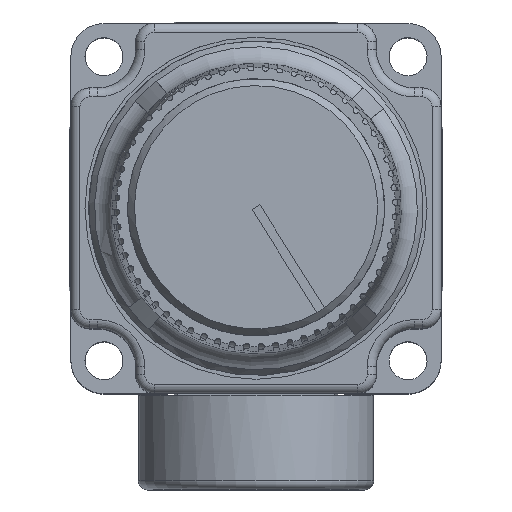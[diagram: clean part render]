
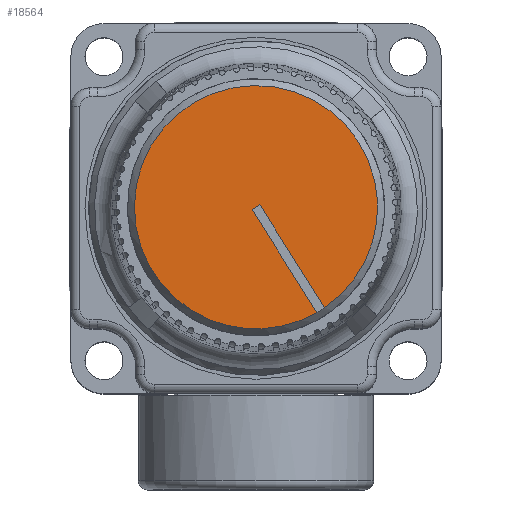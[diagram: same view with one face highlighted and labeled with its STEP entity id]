
A CAD part, top view. The second image highlights one B-rep face of the part: STEP entity #18564.
In plain terms, the highlighted planar face has unit normal (0, 0, 1).
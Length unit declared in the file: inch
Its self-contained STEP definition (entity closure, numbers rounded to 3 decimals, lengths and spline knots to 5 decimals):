
#662=PLANE('',#20417);
#1649=CIRCLE('',#20413,0.4);
#1650=CIRCLE('',#20414,0.4);
#2677=FACE_OUTER_BOUND('',#3786,.T.);
#3786=EDGE_LOOP('',(#15112,#15113,#15114,#15115,#15116));
#5156=LINE('',#38981,#6400);
#5161=LINE('',#39000,#6405);
#5164=LINE('',#39005,#6408);
#6400=VECTOR('',#24934,0.3937);
#6405=VECTOR('',#24945,0.3937);
#6408=VECTOR('',#24950,0.3937);
#8097=VERTEX_POINT('',#38979);
#8098=VERTEX_POINT('',#38980);
#8101=VERTEX_POINT('',#38993);
#8103=VERTEX_POINT('',#38999);
#8105=VERTEX_POINT('',#39009);
#10480=EDGE_CURVE('',#8097,#8098,#5156,.T.);
#10487=EDGE_CURVE('',#8103,#8101,#5161,.T.);
#10490=EDGE_CURVE('',#8098,#8103,#5164,.T.);
#10492=EDGE_CURVE('',#8101,#8105,#1649,.T.);
#10493=EDGE_CURVE('',#8105,#8097,#1650,.T.);
#15112=ORIENTED_EDGE('',*,*,#10487,.T.);
#15113=ORIENTED_EDGE('',*,*,#10492,.T.);
#15114=ORIENTED_EDGE('',*,*,#10493,.T.);
#15115=ORIENTED_EDGE('',*,*,#10480,.T.);
#15116=ORIENTED_EDGE('',*,*,#10490,.T.);
#18564=ADVANCED_FACE('',(#2677),#662,.T.);
#20413=AXIS2_PLACEMENT_3D('',#39010,#24956,#24957);
#20414=AXIS2_PLACEMENT_3D('',#39011,#24958,#24959);
#20417=AXIS2_PLACEMENT_3D('',#39017,#24965,#24966);
#24934=DIRECTION('',(-0.532,0.847,0.));
#24945=DIRECTION('',(0.532,-0.847,0.));
#24950=DIRECTION('',(0.847,0.532,0.));
#24956=DIRECTION('center_axis',(0.,0.,1.));
#24957=DIRECTION('ref_axis',(0.847,0.532,0.));
#24958=DIRECTION('center_axis',(0.,0.,1.));
#24959=DIRECTION('ref_axis',(0.847,0.532,0.));
#24965=DIRECTION('center_axis',(0.,0.,1.));
#24966=DIRECTION('ref_axis',(1.,0.,0.));
#38979=CARTESIAN_POINT('',(0.00343,-0.33789,1.8705));
#38980=CARTESIAN_POINT('',(-0.20906,0.00067,1.8705));
#38981=CARTESIAN_POINT('',(0.00343,-0.33789,1.8705));
#38993=CARTESIAN_POINT('',(0.02884,-0.32194,1.8705));
#38999=CARTESIAN_POINT('',(-0.18365,0.01662,1.8705));
#39000=CARTESIAN_POINT('',(-0.18365,0.01662,1.8705));
#39005=CARTESIAN_POINT('',(-0.20906,0.00067,1.8705));
#39009=CARTESIAN_POINT('',(-0.34851,-0.36128,1.8705));
#39010=CARTESIAN_POINT('Origin',(-0.19636,0.00865,
1.8705));
#39011=CARTESIAN_POINT('Origin',(-0.19636,0.00865,
1.8705));
#39017=CARTESIAN_POINT('Origin',(-0.54513,-0.20719,
1.8705));
